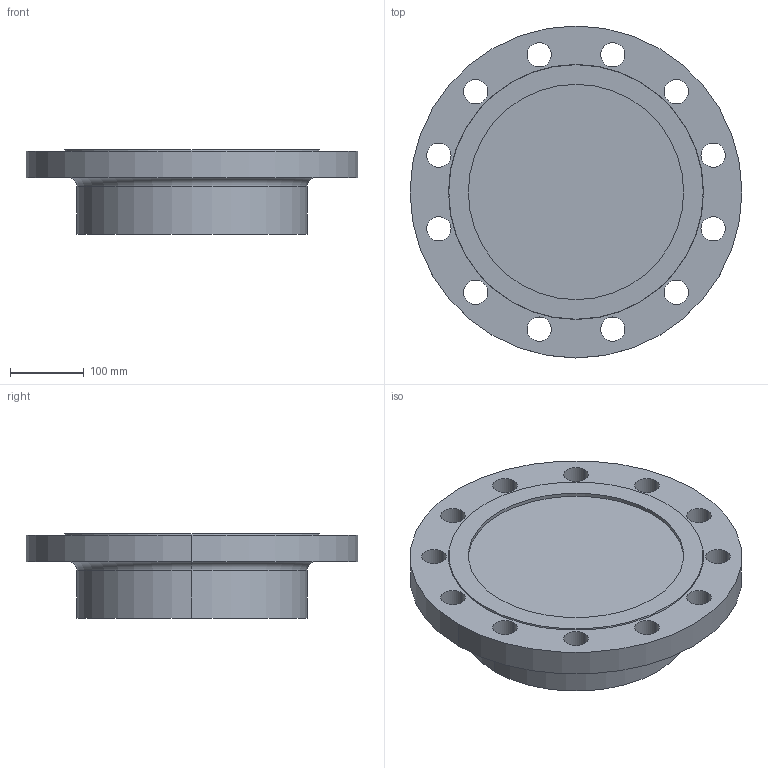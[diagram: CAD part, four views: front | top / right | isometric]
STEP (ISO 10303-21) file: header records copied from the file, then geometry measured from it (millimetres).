
FILE_DESCRIPTION (( 'STEP AP214' ), '1' );
FILE_NAME ('PN40 DN250 Type 21(i) - Type G Face.STEP', '2019-01-05T15:53:20', ( '' ), ( '' ), 'SwSTEP 2.0', 'SolidWorks 2019', '' );
FILE_SCHEMA (( 'AUTOMOTIVE_DESIGN' ));
Length unit declared in the file: millimetre
Products named in the file (1): PN40 DN250 Type 21(i) - Type G Face
Bounding box: 450 x 450 x 115 mm (x, y, z)
Volume: 11126332.2 mm3; surface area: 470136.3 mm2
Topology: 1 solids, 1 shells, 39 faces, 100 edges, 66 vertices
Faces by surface type: cylinder 30, plane 5, torus 2, cone 2
Entity records: 1308 total; most frequent: DIRECTION 248, CARTESIAN_POINT 206, ORIENTED_EDGE 200, AXIS2_PLACEMENT_3D 108, EDGE_CURVE 100, CIRCLE 68, VERTEX_POINT 66, EDGE_LOOP 66
